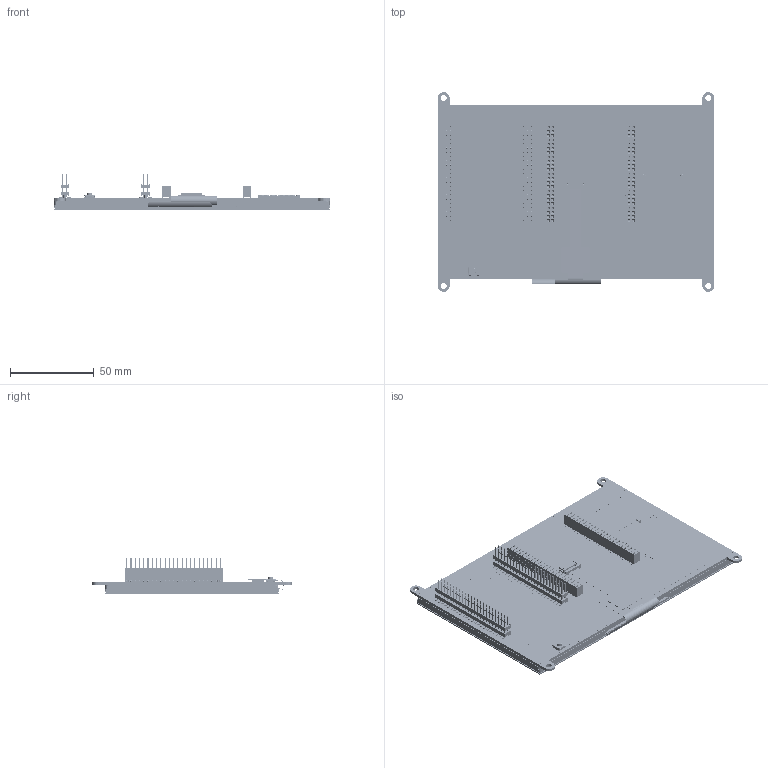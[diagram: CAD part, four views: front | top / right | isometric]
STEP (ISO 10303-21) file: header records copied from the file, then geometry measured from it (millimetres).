
FILE_DESCRIPTION (( 'STEP AP203' ), '1' );
FILE_NAME ('NHD-7.0CTP-CAPE-P.STEP', '2024-08-01T16:54:45', ( '' ), ( '' ), 'SwSTEP 2.0', 'SolidWorks 2019', '' );
FILE_SCHEMA (( 'CONFIG_CONTROL_DESIGN' ));
Products named in the file (2): NHD-7.0CTP-CAPE-P
Bounding box: 165 x 119.21 x 21.34 mm (x, y, z)
Volume: 111461 mm3; surface area: 264027.1 mm2
Topology: 117 solids, 117 shells, 15283 faces, 43214 edges, 28259 vertices
Faces by surface type: plane 10412, bspline 3878, cylinder 978, cone 15
Entity records: 560075 total; most frequent: CARTESIAN_POINT 196766, ORIENTED_EDGE 86428, DIRECTION 55734, EDGE_CURVE 43214, LINE 28996, VECTOR 28996, VERTEX_POINT 28259, EDGE_LOOP 16587
